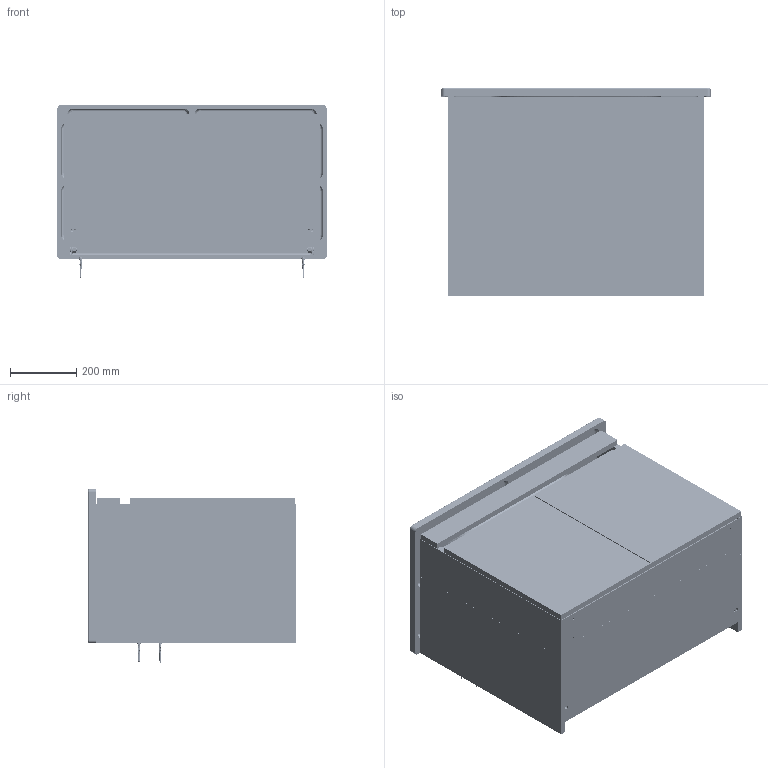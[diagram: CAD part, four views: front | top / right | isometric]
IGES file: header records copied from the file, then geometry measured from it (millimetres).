
Global section: file name: Fold Lavabo Dolabı 80cm,; native system: Autodesk Inventor 2024; preprocessor: unknown; author: pc11; date: 20260624.135002; units: millimetre
Bounding box: 810 x 625 x 524.85 mm (x, y, z)
Volume: 31920088.2 mm3; surface area: 4593649.7 mm2
Topology: 104 solids, 108 shells, 9173 faces, 25310 edges, 16346 vertices
Faces by surface type: bspline 9173
